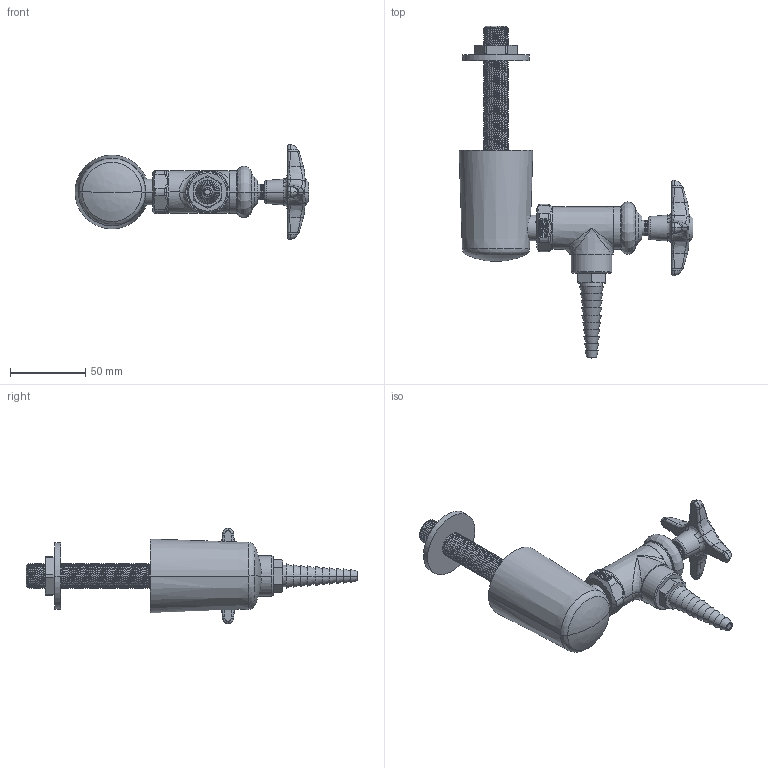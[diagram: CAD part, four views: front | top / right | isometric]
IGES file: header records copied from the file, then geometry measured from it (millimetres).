
Start section:  PTC IGES file: LWV2-C13-10.igs
Global section: file name: LWV2-C13-10.igs; native system: Creo Parametric by PTC Inc.; preprocessor: 2014500; author: usch_engrender; organization: Unknown; date: 20151113.094101; units: inch
Bounding box: 155.27 x 220.37 x 63.42 mm (x, y, z)
Volume: 201247.9 mm3; surface area: 47173.2 mm2
Topology: 1 solids, 3 shells, 745 faces, 1777 edges, 1065 vertices
Faces by surface type: bspline 377, revolution 368
